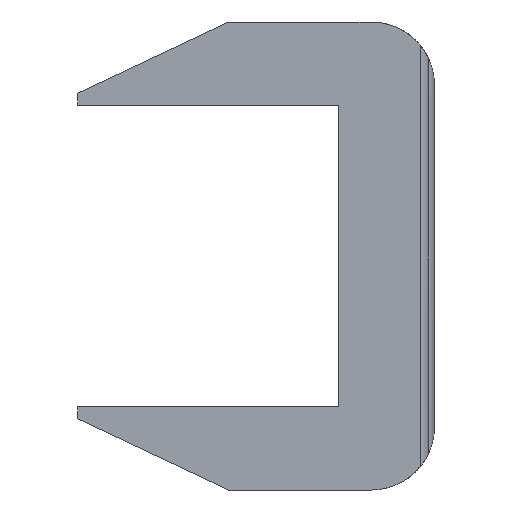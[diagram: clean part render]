
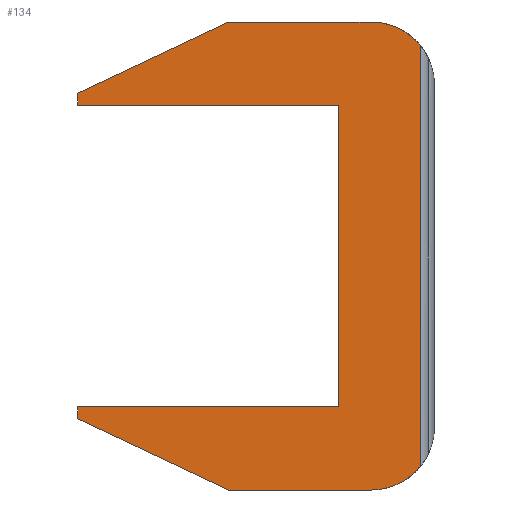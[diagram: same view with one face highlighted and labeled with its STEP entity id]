
A CAD part, front view. The second image highlights one B-rep face of the part: STEP entity #134.
In plain terms, the highlighted planar face has unit normal (0, -1, 0).
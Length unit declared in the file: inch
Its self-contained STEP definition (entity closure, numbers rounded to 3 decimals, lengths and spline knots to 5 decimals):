
#134=ADVANCED_FACE('',(#264),#265,.F.);
#264=FACE_OUTER_BOUND('',#514,.T.);
#265=PLANE('',#515);
#514=EDGE_LOOP('',(#793,#794,#795,#796,#797,#798,#799,#800,#801,#802,#803,#804));
#515=AXIS2_PLACEMENT_3D('',#805,#806,#807);
#793=ORIENTED_EDGE('',*,*,#904,.F.);
#794=ORIENTED_EDGE('',*,*,#927,.F.);
#795=ORIENTED_EDGE('',*,*,#948,.F.);
#796=ORIENTED_EDGE('',*,*,#900,.F.);
#797=ORIENTED_EDGE('',*,*,#961,.F.);
#798=ORIENTED_EDGE('',*,*,#944,.F.);
#799=ORIENTED_EDGE('',*,*,#939,.F.);
#800=ORIENTED_EDGE('',*,*,#848,.F.);
#801=ORIENTED_EDGE('',*,*,#951,.F.);
#802=ORIENTED_EDGE('',*,*,#832,.F.);
#803=ORIENTED_EDGE('',*,*,#956,.F.);
#804=ORIENTED_EDGE('',*,*,#914,.T.);
#805=CARTESIAN_POINT('',(0.15053,0.0,-0.22556));
#806=DIRECTION('',(0.0,1.0,0.0));
#807=DIRECTION('',(-1.0,0.0,0.0));
#832=EDGE_CURVE('',#985,#986,#987,.T.);
#848=EDGE_CURVE('',#1013,#1014,#1015,.T.);
#900=EDGE_CURVE('',#1099,#1100,#1101,.T.);
#904=EDGE_CURVE('',#1105,#1106,#1107,.T.);
#914=EDGE_CURVE('',#1118,#1106,#1119,.T.);
#927=EDGE_CURVE('',#1136,#1105,#1137,.T.);
#939=EDGE_CURVE('',#1014,#1150,#1151,.T.);
#944=EDGE_CURVE('',#1150,#1156,#1157,.T.);
#948=EDGE_CURVE('',#1100,#1136,#1161,.T.);
#951=EDGE_CURVE('',#986,#1013,#1164,.T.);
#956=EDGE_CURVE('',#1118,#985,#1169,.T.);
#961=EDGE_CURVE('',#1156,#1099,#1174,.T.);
#985=VERTEX_POINT('',#1232);
#986=VERTEX_POINT('',#1233);
#987=LINE('',#1234,#1235);
#1013=VERTEX_POINT('',#1276);
#1014=VERTEX_POINT('',#1277);
#1015=LINE('',#1278,#1279);
#1099=VERTEX_POINT('',#1492);
#1100=VERTEX_POINT('',#1493);
#1101=LINE('',#1494,#1495);
#1105=VERTEX_POINT('',#1501);
#1106=VERTEX_POINT('',#1502);
#1107=B_SPLINE_CURVE_WITH_KNOTS('',3,(#1503,#1504,#1505,#1506,#1507,#1508,#1509,#1510),.UNSPECIFIED.,.F.,.F.,(4,2,2,4),(-0.53198,-0.35976,-0.1938,-0.0),.UNSPECIFIED.);
#1118=VERTEX_POINT('',#1551);
#1119=LINE('',#1552,#1553);
#1136=VERTEX_POINT('',#1609);
#1137=LINE('',#1610,#1611);
#1150=VERTEX_POINT('',#1650);
#1151=LINE('',#1651,#1652);
#1156=VERTEX_POINT('',#1661);
#1157=LINE('',#1662,#1663);
#1161=LINE('',#1668,#1669);
#1164=LINE('',#1672,#1673);
#1169=B_SPLINE_CURVE_WITH_KNOTS('',3,(#1678,#1679,#1680,#1681,#1682,#1683,#1684,#1685),.UNSPECIFIED.,.F.,.F.,(4,2,2,4),(-0.5332,-0.3637,-0.19345,-0.0),.UNSPECIFIED.);
#1174=LINE('',#1693,#1694);
#1232=CARTESIAN_POINT('',(1.12051,0.0,0.));
#1233=CARTESIAN_POINT('',(0.0,0.0,0.));
#1234=CARTESIAN_POINT('',(0.35539,0.0,0.));
#1235=VECTOR('',#1700,1.0);
#1276=CARTESIAN_POINT('',(-1.19199,0.0,0.5625));
#1277=CARTESIAN_POINT('',(-1.19199,0.0,0.65625));
#1278=CARTESIAN_POINT('',(-1.19199,0.0,0.19191));
#1279=VECTOR('',#1713,1.0);
#1492=CARTESIAN_POINT('',(-1.19199,0.0,3.03125));
#1493=CARTESIAN_POINT('',(-1.19199,0.0,3.125));
#1494=CARTESIAN_POINT('',(-1.19199,0.0,1.42628));
#1495=VECTOR('',#1739,1.0);
#1501=CARTESIAN_POINT('',(1.12051,0.0,3.6875));
#1502=CARTESIAN_POINT('',(1.507,0.0,3.50474));
#1503=CARTESIAN_POINT('',(1.12051,0.0,3.6875));
#1504=CARTESIAN_POINT('',(1.17802,0.0,3.6875));
#1505=CARTESIAN_POINT('',(1.23474,0.0,3.67779));
#1506=CARTESIAN_POINT('',(1.34093,0.0,3.63984));
#1507=CARTESIAN_POINT('',(1.38954,0.0,3.61263));
#1508=CARTESIAN_POINT('',(1.48313,0.0,3.53772));
#1509=CARTESIAN_POINT('',(1.52542,0.0,3.48792));
#1510=CARTESIAN_POINT('',(1.557,0.0,3.43156));
#1551=CARTESIAN_POINT('',(1.507,0.0,0.18276));
#1552=CARTESIAN_POINT('',(1.507,0.0,-0.22556));
#1553=VECTOR('',#1745,1.0);
#1609=CARTESIAN_POINT('',(0.0,0.0,3.6875));
#1610=CARTESIAN_POINT('',(0.35539,0.0,3.6875));
#1611=VECTOR('',#1748,1.0);
#1650=CARTESIAN_POINT('',(0.86602,0.0,0.65625));
#1651=CARTESIAN_POINT('',(-0.00623,0.0,0.65625));
#1652=VECTOR('',#1753,1.0);
#1661=CARTESIAN_POINT('',(0.86602,0.0,3.03125));
#1662=CARTESIAN_POINT('',(0.86602,0.0,0.8091));
#1663=VECTOR('',#1755,1.0);
#1668=CARTESIAN_POINT('',(-0.99157,0.0,3.21958));
#1669=VECTOR('',#1757,1.0);
#1672=CARTESIAN_POINT('',(-0.19291,0.0,0.09104));
#1673=VECTOR('',#1758,1.0);
#1678=CARTESIAN_POINT('',(1.557,0.0,0.25594));
#1679=CARTESIAN_POINT('',(1.52944,0.0,0.20676));
#1680=CARTESIAN_POINT('',(1.4937,0.0,0.16253));
#1681=CARTESIAN_POINT('',(1.40904,0.0,0.08772));
#1682=CARTESIAN_POINT('',(1.36055,0.0,0.05762));
#1683=CARTESIAN_POINT('',(1.24839,0.0,0.01221));
#1684=CARTESIAN_POINT('',(1.18499,0.0,0.));
#1685=CARTESIAN_POINT('',(1.12051,0.0,0.));
#1693=CARTESIAN_POINT('',(-0.00623,0.0,3.03125));
#1694=VECTOR('',#1759,1.0);
#1700=DIRECTION('',(-1.0,0.0,-0.0));
#1713=DIRECTION('',(0.0,0.0,1.0));
#1739=DIRECTION('',(0.0,0.0,1.0));
#1745=DIRECTION('',(0.0,0.0,1.0));
#1748=DIRECTION('',(1.0,0.0,0.0));
#1753=DIRECTION('',(1.0,0.0,0.0));
#1755=DIRECTION('',(0.0,0.0,1.0));
#1757=DIRECTION('',(0.904,0.0,0.427));
#1758=DIRECTION('',(-0.904,0.0,0.427));
#1759=DIRECTION('',(-1.0,0.0,-0.0));
